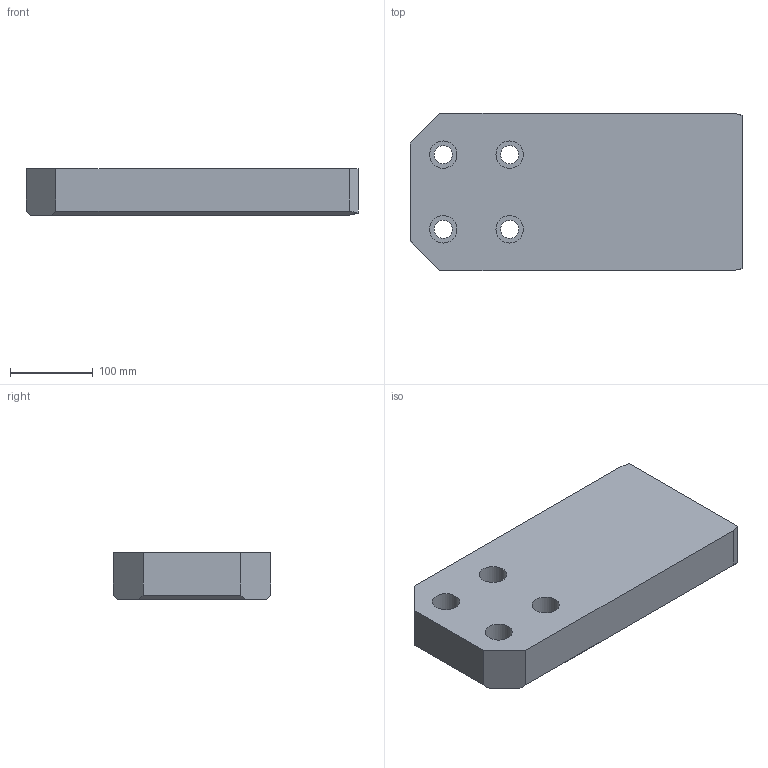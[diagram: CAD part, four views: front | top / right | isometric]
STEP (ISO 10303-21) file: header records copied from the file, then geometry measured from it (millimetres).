
FILE_DESCRIPTION(/* description */ ('Impex Ready, www.impex-ready.pl'),/* implementation_level */ '2;1');
FILE_NAME(/* name */ 'C:\Users\VIKKY\Nextcloud\SM\projekt 10 - części na stronę internetową\Pliki_3D_new\338 Listwy LR13\338 LR13_STEP\LR13.19056400.ipt.step',/* time_stamp */ '2021-12-20T13:38:51+01:00',/* author */ ('SM'),/* organization */ (''),/* preprocessor_version */ 'ST-DEVELOPER v18.1',/* originating_system */ 'Autodesk Inventor 2021',/* authorisation */ '');
FILE_SCHEMA (('AUTOMOTIVE_DESIGN { 1 0 10303 214 3 1 1 }'));
Length unit declared in the file: millimetre
Products named in the file (1): LR13.19056400
Bounding box: 400 x 190 x 56 mm (x, y, z)
Volume: 4029377.7 mm3; surface area: 227232.5 mm2
Topology: 1 solids, 1 shells, 29 faces, 67 edges, 44 vertices
Faces by surface type: plane 18, cylinder 9, cone 2
Full cylindrical faces by diameter (mm): 14.2 x1, 22 x4, 33 x4
Entity records: 923 total; most frequent: DIRECTION 145, CARTESIAN_POINT 140, ORIENTED_EDGE 132, EDGE_CURVE 66, AXIS2_PLACEMENT_3D 49, LINE 47, VECTOR 47, VERTEX_POINT 44
